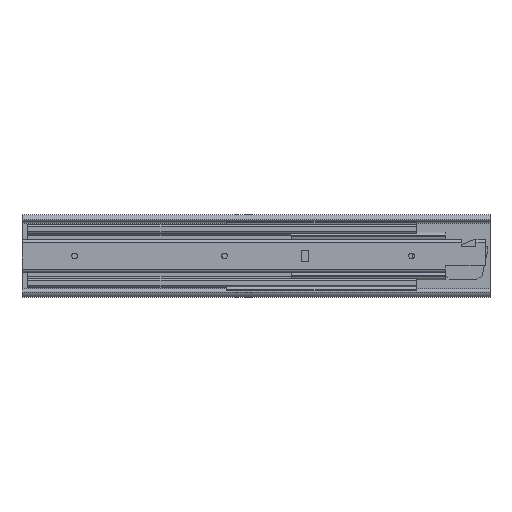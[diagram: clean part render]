
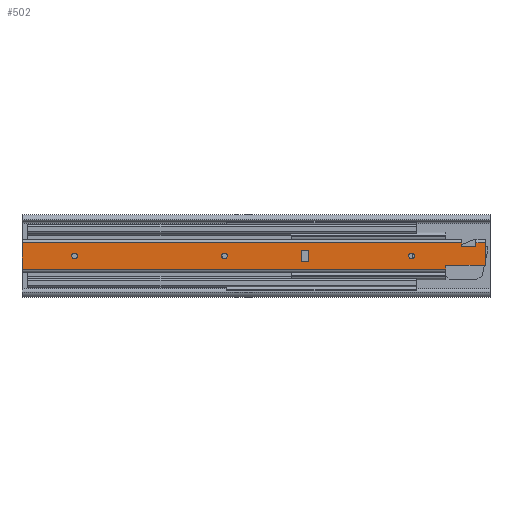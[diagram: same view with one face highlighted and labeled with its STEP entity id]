
A CAD part, top view. The second image highlights one B-rep face of the part: STEP entity #502.
In plain terms, the highlighted planar face has unit normal (0, 0, 1).
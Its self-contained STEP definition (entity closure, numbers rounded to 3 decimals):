
#502 = ADVANCED_FACE( '', ( #1142, #1143, #1144, #1145, #1146 ), #1147, .F. );
#1142 = FACE_BOUND( '', #1792, .T. );
#1143 = FACE_BOUND( '', #1793, .T. );
#1144 = FACE_BOUND( '', #1794, .T. );
#1145 = FACE_BOUND( '', #1795, .T. );
#1146 = FACE_OUTER_BOUND( '', #1796, .T. );
#1147 = PLANE( '', #1797 );
#1792 = EDGE_LOOP( '', ( #4377, #4378, #4379, #4380 ) );
#1793 = EDGE_LOOP( '', ( #4381 ) );
#1794 = EDGE_LOOP( '', ( #4382 ) );
#1795 = EDGE_LOOP( '', ( #4383 ) );
#1796 = EDGE_LOOP( '', ( #4384, #4385, #4386, #4387, #4388, #4389, #4390, #4391, #4392, #4393 ) );
#1797 = AXIS2_PLACEMENT_3D( '', #4394, #4395, #4396 );
#4377 = ORIENTED_EDGE( '', *, *, #5114, .F. );
#4378 = ORIENTED_EDGE( '', *, *, #5117, .F. );
#4379 = ORIENTED_EDGE( '', *, *, #5119, .F. );
#4380 = ORIENTED_EDGE( '', *, *, #5121, .F. );
#4381 = ORIENTED_EDGE( '', *, *, #5122, .F. );
#4382 = ORIENTED_EDGE( '', *, *, #5124, .F. );
#4383 = ORIENTED_EDGE( '', *, *, #5126, .F. );
#4384 = ORIENTED_EDGE( '', *, *, #5105, .F. );
#4385 = ORIENTED_EDGE( '', *, *, #5103, .F. );
#4386 = ORIENTED_EDGE( '', *, *, #5297, .T. );
#4387 = ORIENTED_EDGE( '', *, *, #5276, .T. );
#4388 = ORIENTED_EDGE( '', *, *, #5300, .F. );
#4389 = ORIENTED_EDGE( '', *, *, #5193, .F. );
#4390 = ORIENTED_EDGE( '', *, *, #5298, .F. );
#4391 = ORIENTED_EDGE( '', *, *, #5275, .F. );
#4392 = ORIENTED_EDGE( '', *, *, #5288, .T. );
#4393 = ORIENTED_EDGE( '', *, *, #5092, .F. );
#4394 = CARTESIAN_POINT( '', ( 396., 11.25, 0. ) );
#4395 = DIRECTION( '', ( 0., 0., -1. ) );
#4396 = DIRECTION( '', ( -1., 0., 0. ) );
#5092 = EDGE_CURVE( '', #6397, #6399, #6400, .T. );
#5103 = EDGE_CURVE( '', #6418, #6420, #6421, .T. );
#5105 = EDGE_CURVE( '', #6420, #6397, #6423, .T. );
#5114 = EDGE_CURVE( '', #6436, #6437, #6438, .T. );
#5117 = EDGE_CURVE( '', #6441, #6436, #6442, .T. );
#5119 = EDGE_CURVE( '', #6444, #6441, #6445, .T. );
#5121 = EDGE_CURVE( '', #6437, #6444, #6447, .T. );
#5122 = EDGE_CURVE( '', #6448, #6448, #6449, .T. );
#5124 = EDGE_CURVE( '', #6452, #6452, #6453, .T. );
#5126 = EDGE_CURVE( '', #6456, #6456, #6457, .T. );
#5193 = EDGE_CURVE( '', #6570, #6572, #6573, .T. );
#5275 = EDGE_CURVE( '', #6703, #6693, #6705, .T. );
#5276 = EDGE_CURVE( '', #6706, #6707, #6708, .T. );
#5288 = EDGE_CURVE( '', #6703, #6399, #6726, .T. );
#5297 = EDGE_CURVE( '', #6418, #6706, #6735, .T. );
#5298 = EDGE_CURVE( '', #6693, #6570, #6736, .T. );
#5300 = EDGE_CURVE( '', #6572, #6707, #6738, .T. );
#6397 = VERTEX_POINT( '', #8311 );
#6399 = VERTEX_POINT( '', #8314 );
#6400 = LINE( '', #8315, #8316 );
#6418 = VERTEX_POINT( '', #8338 );
#6420 = VERTEX_POINT( '', #8340 );
#6421 = LINE( '', #8341, #8342 );
#6423 = LINE( '', #8345, #8346 );
#6436 = VERTEX_POINT( '', #8367 );
#6437 = VERTEX_POINT( '', #8368 );
#6438 = LINE( '', #8369, #8370 );
#6441 = VERTEX_POINT( '', #8375 );
#6442 = LINE( '', #8376, #8377 );
#6444 = VERTEX_POINT( '', #8380 );
#6445 = LINE( '', #8381, #8382 );
#6447 = LINE( '', #8385, #8386 );
#6448 = VERTEX_POINT( '', #8387 );
#6449 = CIRCLE( '', #8388, 2.5 );
#6452 = VERTEX_POINT( '', #8391 );
#6453 = CIRCLE( '', #8392, 2.5 );
#6456 = VERTEX_POINT( '', #8395 );
#6457 = CIRCLE( '', #8396, 2.5 );
#6570 = VERTEX_POINT( '', #8549 );
#6572 = VERTEX_POINT( '', #8552 );
#6573 = LINE( '', #8553, #8554 );
#6693 = VERTEX_POINT( '', #8729 );
#6703 = VERTEX_POINT( '', #8742 );
#6705 = LINE( '', #8744, #8745 );
#6706 = VERTEX_POINT( '', #8746 );
#6707 = VERTEX_POINT( '', #8747 );
#6708 = LINE( '', #8748, #8749 );
#6726 = LINE( '', #8772, #8773 );
#6735 = LINE( '', #8790, #8791 );
#6736 = LINE( '', #8792, #8793 );
#6738 = LINE( '', #8796, #8797 );
#8311 = CARTESIAN_POINT( '', ( 388., 8., 0. ) );
#8314 = CARTESIAN_POINT( '', ( 388., 11.25, 0. ) );
#8315 = CARTESIAN_POINT( '', ( 388., 8., 0. ) );
#8316 = VECTOR( '', #9821, 1000. );
#8338 = CARTESIAN_POINT( '', ( 376., 11.25, 0. ) );
#8340 = CARTESIAN_POINT( '', ( 376., 8., 0. ) );
#8341 = CARTESIAN_POINT( '', ( 376., 18., 0. ) );
#8342 = VECTOR( '', #9844, 1000. );
#8345 = CARTESIAN_POINT( '', ( 376., 8., 0. ) );
#8346 = VECTOR( '', #9846, 1000. );
#8367 = CARTESIAN_POINT( '', ( 245., -5., 0. ) );
#8368 = CARTESIAN_POINT( '', ( 245., 5., 0. ) );
#8369 = CARTESIAN_POINT( '', ( 245., -5., 0. ) );
#8370 = VECTOR( '', #9855, 1000. );
#8375 = CARTESIAN_POINT( '', ( 239., -5., 0. ) );
#8376 = CARTESIAN_POINT( '', ( 239., -5., 0. ) );
#8377 = VECTOR( '', #9858, 1000. );
#8380 = CARTESIAN_POINT( '', ( 239., 5., 0. ) );
#8381 = CARTESIAN_POINT( '', ( 239., 5., 0. ) );
#8382 = VECTOR( '', #9860, 1000. );
#8385 = CARTESIAN_POINT( '', ( 245., 5., 0. ) );
#8386 = VECTOR( '', #9862, 1000. );
#8387 = CARTESIAN_POINT( '', ( 335.5, 0., 0. ) );
#8388 = AXIS2_PLACEMENT_3D( '', #9863, #9864, #9865 );
#8391 = CARTESIAN_POINT( '', ( 175.5, 0., 0. ) );
#8392 = AXIS2_PLACEMENT_3D( '', #9869, #9870, #9871 );
#8395 = CARTESIAN_POINT( '', ( 47.5, 0., 0. ) );
#8396 = AXIS2_PLACEMENT_3D( '', #9875, #9876, #9877 );
#8549 = CARTESIAN_POINT( '', ( 362., -8., 0. ) );
#8552 = CARTESIAN_POINT( '', ( 362., -11.25, 0. ) );
#8553 = CARTESIAN_POINT( '', ( 362., -8., 0. ) );
#8554 = VECTOR( '', #9994, 1000. );
#8729 = CARTESIAN_POINT( '', ( 396., -8., 0. ) );
#8742 = CARTESIAN_POINT( '', ( 396., 11.25, 0. ) );
#8744 = CARTESIAN_POINT( '', ( 396., 11.25, 0. ) );
#8745 = VECTOR( '', #10122, 1000. );
#8746 = CARTESIAN_POINT( '', ( 0., 11.25, 0. ) );
#8747 = CARTESIAN_POINT( '', ( 0., -11.25, 0. ) );
#8748 = CARTESIAN_POINT( '', ( 0., 11.25, 0. ) );
#8749 = VECTOR( '', #10123, 1000. );
#8772 = CARTESIAN_POINT( '', ( 396., 11.25, 0. ) );
#8773 = VECTOR( '', #10147, 1000. );
#8790 = CARTESIAN_POINT( '', ( 396., 11.25, 0. ) );
#8791 = VECTOR( '', #10156, 1000. );
#8792 = CARTESIAN_POINT( '', ( 396., -8., 0. ) );
#8793 = VECTOR( '', #10157, 1000. );
#8796 = CARTESIAN_POINT( '', ( 396., -11.25, 0. ) );
#8797 = VECTOR( '', #10159, 1000. );
#9821 = DIRECTION( '', ( 0., 1., 0. ) );
#9844 = DIRECTION( '', ( 0., -1., 0. ) );
#9846 = DIRECTION( '', ( 1., 0., 0. ) );
#9855 = DIRECTION( '', ( 0., 1., 0. ) );
#9858 = DIRECTION( '', ( 1., 0., 0. ) );
#9860 = DIRECTION( '', ( 0., -1., 0. ) );
#9862 = DIRECTION( '', ( -1., 0., 0. ) );
#9863 = CARTESIAN_POINT( '', ( 333., 0., 0. ) );
#9864 = DIRECTION( '', ( 0., 0., 1. ) );
#9865 = DIRECTION( '', ( 1., 0., 0. ) );
#9869 = CARTESIAN_POINT( '', ( 173., 0., 0. ) );
#9870 = DIRECTION( '', ( 0., 0., 1. ) );
#9871 = DIRECTION( '', ( 1., 0., 0. ) );
#9875 = CARTESIAN_POINT( '', ( 45., 0., 0. ) );
#9876 = DIRECTION( '', ( 0., 0., 1. ) );
#9877 = DIRECTION( '', ( 1., 0., 0. ) );
#9994 = DIRECTION( '', ( 0., -1., 0. ) );
#10122 = DIRECTION( '', ( 0., -1., 0. ) );
#10123 = DIRECTION( '', ( 0., -1., 0. ) );
#10147 = DIRECTION( '', ( -1., 0., 0. ) );
#10156 = DIRECTION( '', ( -1., 0., 0. ) );
#10157 = DIRECTION( '', ( -1., 0., 0. ) );
#10159 = DIRECTION( '', ( -1., 0., 0. ) );
